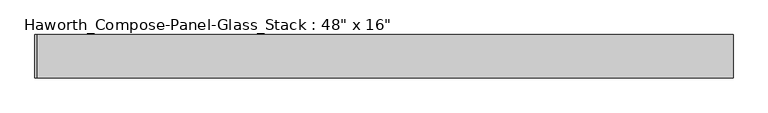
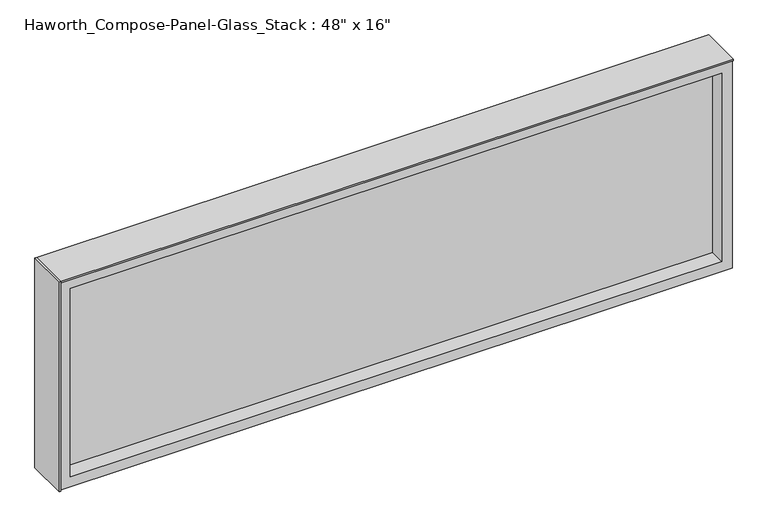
"""IFC4 building model written with IfcOpenShell, lengths in millimetres: furniture geometry."""

from ifc_helpers import new_model, si_unit, frame, origin, place, context, project, spatial, polyline, outline, extrude, source, transform, mapped, element, save


def furniture_c4d0c9cf(model_context):
    return source(origin(), model_context, "Body", "SweptSolid", [
        extrude(outline(polyline([(-610.3347098, 38.1), (-607.1597098, 38.1), (-607.1597098, -38.1), (-610.3347098, -38.1), (-610.3347098, 38.1)])), frame((0.0, 0.0, 1066.8), z_axis=(0.0, 0.0, 1.0), x_axis=(1.0, 0.0, 0.0)), (0.0, 0.0, 1.0), 403.225),
        extrude(outline(polyline([(592.9902902, 6.35), (592.9902902, -6.35), (-588.1097098, -6.35), (-588.1097098, 6.35), (592.9902902, 6.35)])), frame((0.0, 0.0, 1085.85), z_axis=(0.0, 0.0, 1.0), x_axis=(1.0, 0.0, 0.0)), (0.0, 0.0, 1.0), 361.95),
        extrude(outline(polyline([(1466.85, 612.0402902), (1466.85, -607.1597098), (1066.8, -607.1597098), (1066.8, 612.0402902), (1466.85, 612.0402902)]), holes=[polyline([(1447.8, -588.1097098), (1447.8, 592.9902902), (1085.85, 592.9902902), (1085.85, -588.1097098), (1447.8, -588.1097098)])]), frame((0.0, -34.925, 0.0), z_axis=(0.0, 1.0, 0.0), x_axis=(0.0, 0.0, 1.0)), (0.0, 0.0, 1.0), 69.85),
        extrude(outline(polyline([(-607.1597098, 38.1), (612.0402902, 38.1), (612.0402902, -38.1), (-607.1597098, -38.1), (-607.1597098, 38.1)])), frame((0.0, 0.0, 1466.85), z_axis=(0.0, 0.0, 1.0), x_axis=(1.0, 0.0, 0.0)), (0.0, 0.0, 1.0), 3.175),
    ])


if __name__ == "__main__":
    model = new_model("IFC4")
    model_context = context("Model", 3, world=origin())
    ifc_project = project(units=[si_unit("LENGTHUNIT", "METRE", prefix="MILLI")], contexts=[model_context])
    site = spatial("IfcSite", under=ifc_project)
    building = spatial("IfcBuilding", under=site)
    placement = place(None, origin())
    furniture_shape = furniture_c4d0c9cf(model_context)
    element("IfcFurniture", 1, ObjectType="Haworth_Compose-Panel-Glass_Stack : 48\" x 16\"", at=placement, inside=building, context=model_context, shape_type="MappedRepresentation", body=[
        mapped(furniture_shape, transform((0.0, 0.0, 0.0), x_axis=(1.0, 0.0, 0.0), y_axis=(0.0, 1.0, 0.0), z_axis=(0.0, 0.0, 1.0))),
    ])
    save(model, "model.ifc")
